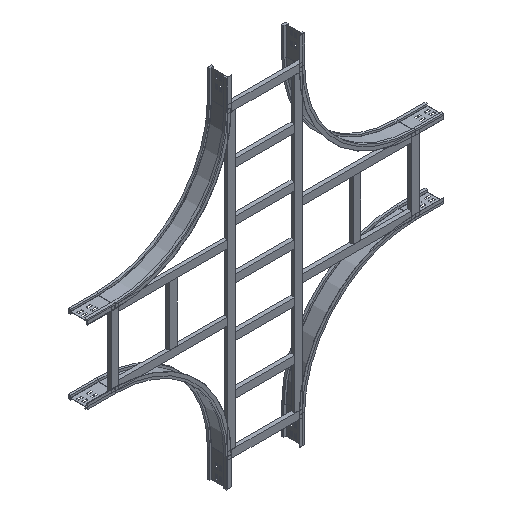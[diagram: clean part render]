
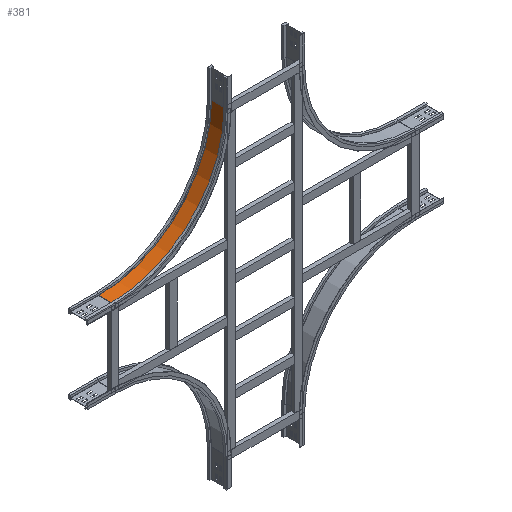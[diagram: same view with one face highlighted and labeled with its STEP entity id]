
A CAD part, isometric view. The second image highlights one B-rep face of the part: STEP entity #381.
In plain terms, the highlighted cylindrical face has radius 600 mm (diameter 1200 mm), a partial arc.
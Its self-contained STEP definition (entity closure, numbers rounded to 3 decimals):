
#5 = VERTEX_POINT ( 'NONE', #1459 ) ;
#72 = FACE_OUTER_BOUND ( 'NONE', #1376, .T. ) ;
#77 = DIRECTION ( 'NONE',  ( -1., 0., 0. ) ) ;
#153 = VERTEX_POINT ( 'NONE', #1788 ) ;
#158 = CARTESIAN_POINT ( 'NONE',  ( 591., 12., -750. ) ) ;
#381 = ADVANCED_FACE ( 'NONE', ( #72 ), #977, .F. ) ;
#432 = AXIS2_PLACEMENT_3D ( 'NONE', #2443, #945, #1449 ) ;
#435 = CARTESIAN_POINT ( 'NONE',  ( -9., 12., -150. ) ) ;
#439 = EDGE_CURVE ( 'NONE', #5, #1686, #1708, .T. ) ;
#572 = AXIS2_PLACEMENT_3D ( 'NONE', #1597, #2553, #77 ) ;
#628 = CIRCLE ( 'NONE', #2312, 600. ) ;
#777 = CARTESIAN_POINT ( 'NONE',  ( 591., 88., -150. ) ) ;
#945 = DIRECTION ( 'NONE',  ( 0., -1., 0. ) ) ;
#962 = DIRECTION ( 'NONE',  ( 0., 1., 0. ) ) ;
#977 = CYLINDRICAL_SURFACE ( 'NONE', #432, 600. ) ;
#1040 = CARTESIAN_POINT ( 'NONE',  ( -9., 88., -150. ) ) ;
#1241 = EDGE_CURVE ( 'NONE', #5, #2513, #1356, .T. ) ;
#1356 = CIRCLE ( 'NONE', #572, 600. ) ;
#1376 = EDGE_LOOP ( 'NONE', ( #2918, #1441, #2597, #2953 ) ) ;
#1441 = ORIENTED_EDGE ( 'NONE', *, *, #439, .F. ) ;
#1449 = DIRECTION ( 'NONE',  ( 0., 0., -1. ) ) ;
#1459 = CARTESIAN_POINT ( 'NONE',  ( -9., 12., -150. ) ) ;
#1597 = CARTESIAN_POINT ( 'NONE',  ( 591., 12., -150. ) ) ;
#1686 = VERTEX_POINT ( 'NONE', #1040 ) ;
#1708 = LINE ( 'NONE', #435, #3122 ) ;
#1725 = VECTOR ( 'NONE', #1967, 1000. ) ;
#1788 = CARTESIAN_POINT ( 'NONE',  ( 591., 88., -750. ) ) ;
#1967 = DIRECTION ( 'NONE',  ( 0., 1., 0. ) ) ;
#2226 = LINE ( 'NONE', #3024, #1725 ) ;
#2312 = AXIS2_PLACEMENT_3D ( 'NONE', #777, #3013, #2976 ) ;
#2443 = CARTESIAN_POINT ( 'NONE',  ( 591., 0., -150. ) ) ;
#2513 = VERTEX_POINT ( 'NONE', #158 ) ;
#2553 = DIRECTION ( 'NONE',  ( 0., -1., 0. ) ) ;
#2597 = ORIENTED_EDGE ( 'NONE', *, *, #1241, .T. ) ;
#2779 = EDGE_CURVE ( 'NONE', #2513, #153, #2226, .T. ) ;
#2918 = ORIENTED_EDGE ( 'NONE', *, *, #2938, .F. ) ;
#2938 = EDGE_CURVE ( 'NONE', #1686, #153, #628, .T. ) ;
#2953 = ORIENTED_EDGE ( 'NONE', *, *, #2779, .T. ) ;
#2976 = DIRECTION ( 'NONE',  ( -1., 0., 0. ) ) ;
#3013 = DIRECTION ( 'NONE',  ( 0., -1., 0. ) ) ;
#3024 = CARTESIAN_POINT ( 'NONE',  ( 591., 12., -750. ) ) ;
#3122 = VECTOR ( 'NONE', #962, 1000. ) ;
